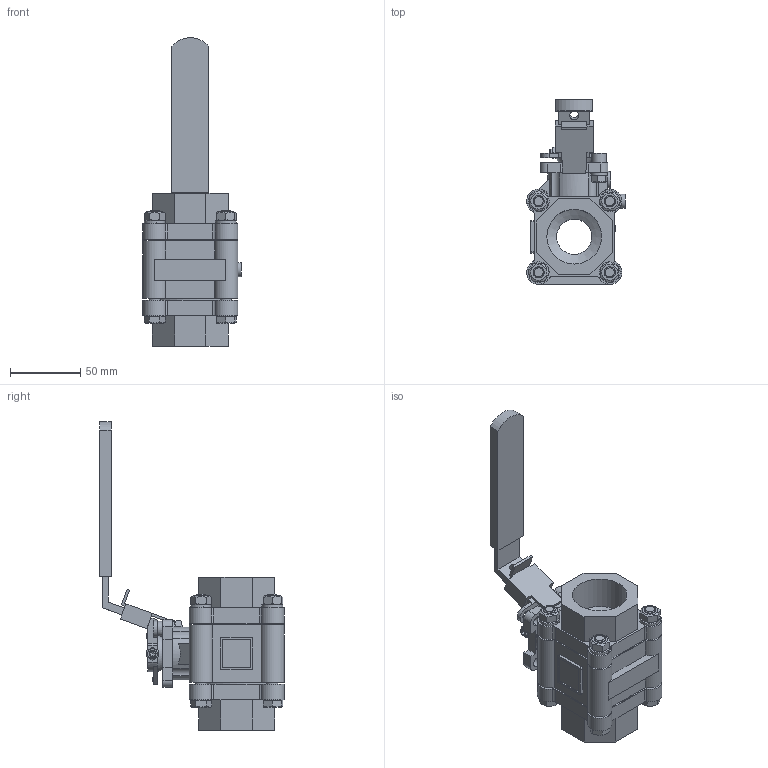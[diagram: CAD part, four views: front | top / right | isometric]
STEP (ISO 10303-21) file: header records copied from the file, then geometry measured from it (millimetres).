
FILE_DESCRIPTION(/* description */ ('Eriks item no: 13278911'),/* implementation_level */ '2;1');
FILE_NAME(/* name */ 'L:\DATA\ENG\Inventor\Econ 3D modellen\kogelkranen\7442\Rubens Versie\7442-DN32-RB.stp',/* time_stamp */ '2023-06-08T07:44:13+02:00',/* author */ ('roger.thijssen'),/* organization */ (''),/* preprocessor_version */ 'ST-DEVELOPER v18',/* originating_system */ 'Autodesk Inventor 2020',/* authorisation */ '');
FILE_SCHEMA (('CONFIG_CONTROL_DESIGN'));
Length unit declared in the file: millimetre
Products named in the file (1): Ball valve, 7442 - 1.1/2" - RB, (TF4103)
Bounding box: 70.1 x 131.16 x 219.5 mm (x, y, z)
Volume: 335893 mm3; surface area: 87773.6 mm2
Topology: 1 solids, 1 shells, 696 faces, 1845 edges, 1187 vertices
Faces by surface type: plane 442, cylinder 162, cone 60, bspline 30, sphere 1, torus 1
Full cylindrical faces by diameter (mm): 5 x2, 6 x1, 6.5 x2, 8 x8, 8.566 x1, 9 x11, 10 x1, 10.5 x1, 11.6 x4, 12 x1, 25 x1, 30 x1, 35 x1, 38.952 x2, 57 x2
Entity records: 22217 total; most frequent: CARTESIAN_POINT 4772, ORIENTED_EDGE 3688, DIRECTION 3503, EDGE_CURVE 1844, AXIS2_PLACEMENT_3D 1216, VERTEX_POINT 1187, LINE 1071, VECTOR 1071
